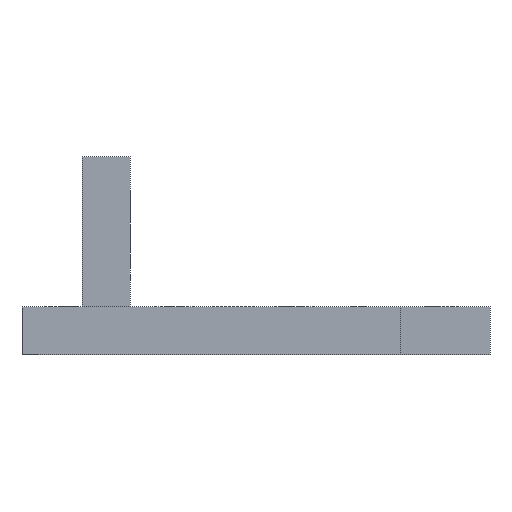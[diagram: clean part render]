
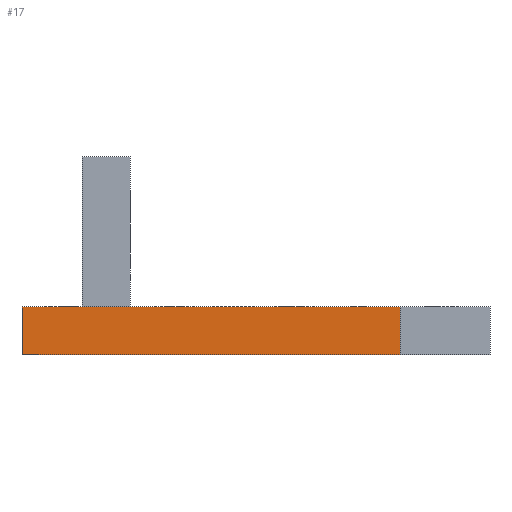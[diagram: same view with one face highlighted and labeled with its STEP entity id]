
A CAD part, left-side view. The second image highlights one B-rep face of the part: STEP entity #17.
In plain terms, the highlighted planar face has unit normal (-1, 0, 0).
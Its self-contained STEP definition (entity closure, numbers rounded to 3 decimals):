
#17 = ADVANCED_FACE('',(#18),#32,.F.);
#18 = FACE_BOUND('',#19,.F.);
#19 = EDGE_LOOP('',(#20,#55,#83,#111));
#20 = ORIENTED_EDGE('',*,*,#21,.F.);
#21 = EDGE_CURVE('',#22,#24,#26,.T.);
#22 = VERTEX_POINT('',#23);
#23 = CARTESIAN_POINT('',(0.,15.,8.));
#24 = VERTEX_POINT('',#25);
#25 = CARTESIAN_POINT('',(0.,78.,8.));
#26 = SURFACE_CURVE('',#27,(#31,#43),.PCURVE_S1.);
#27 = LINE('',#28,#29);
#28 = CARTESIAN_POINT('',(0.,15.,8.));
#29 = VECTOR('',#30,1.);
#30 = DIRECTION('',(0.,1.,0.));
#31 = PCURVE('',#32,#37);
#32 = PLANE('',#33);
#33 = AXIS2_PLACEMENT_3D('',#34,#35,#36);
#34 = CARTESIAN_POINT('',(0.,15.,8.));
#35 = DIRECTION('',(1.,0.,0.));
#36 = DIRECTION('',(0.,1.,0.));
#37 = DEFINITIONAL_REPRESENTATION('',(#38),#42);
#38 = LINE('',#39,#40);
#39 = CARTESIAN_POINT('',(0.,0.));
#40 = VECTOR('',#41,1.);
#41 = DIRECTION('',(1.,0.));
#42 = ( GEOMETRIC_REPRESENTATION_CONTEXT(2) 
PARAMETRIC_REPRESENTATION_CONTEXT() REPRESENTATION_CONTEXT('2D SPACE',''
  ) );
#43 = PCURVE('',#44,#49);
#44 = PLANE('',#45);
#45 = AXIS2_PLACEMENT_3D('',#46,#47,#48);
#46 = CARTESIAN_POINT('',(0.,15.,8.));
#47 = DIRECTION('',(0.,0.,-1.));
#48 = DIRECTION('',(0.,1.,0.));
#49 = DEFINITIONAL_REPRESENTATION('',(#50),#54);
#50 = LINE('',#51,#52);
#51 = CARTESIAN_POINT('',(0.,0.));
#52 = VECTOR('',#53,1.);
#53 = DIRECTION('',(1.,0.));
#54 = ( GEOMETRIC_REPRESENTATION_CONTEXT(2) 
PARAMETRIC_REPRESENTATION_CONTEXT() REPRESENTATION_CONTEXT('2D SPACE',''
  ) );
#55 = ORIENTED_EDGE('',*,*,#56,.T.);
#56 = EDGE_CURVE('',#22,#57,#59,.T.);
#57 = VERTEX_POINT('',#58);
#58 = CARTESIAN_POINT('',(0.,15.,0.));
#59 = SURFACE_CURVE('',#60,(#64,#71),.PCURVE_S1.);
#60 = LINE('',#61,#62);
#61 = CARTESIAN_POINT('',(0.,15.,8.));
#62 = VECTOR('',#63,1.);
#63 = DIRECTION('',(0.,0.,-1.));
#64 = PCURVE('',#32,#65);
#65 = DEFINITIONAL_REPRESENTATION('',(#66),#70);
#66 = LINE('',#67,#68);
#67 = CARTESIAN_POINT('',(0.,0.));
#68 = VECTOR('',#69,1.);
#69 = DIRECTION('',(0.,-1.));
#70 = ( GEOMETRIC_REPRESENTATION_CONTEXT(2) 
PARAMETRIC_REPRESENTATION_CONTEXT() REPRESENTATION_CONTEXT('2D SPACE',''
  ) );
#71 = PCURVE('',#72,#77);
#72 = PLANE('',#73);
#73 = AXIS2_PLACEMENT_3D('',#74,#75,#76);
#74 = CARTESIAN_POINT('',(0.,15.,8.));
#75 = DIRECTION('',(0.,1.,0.));
#76 = DIRECTION('',(1.,0.,0.));
#77 = DEFINITIONAL_REPRESENTATION('',(#78),#82);
#78 = LINE('',#79,#80);
#79 = CARTESIAN_POINT('',(0.,0.));
#80 = VECTOR('',#81,1.);
#81 = DIRECTION('',(0.,1.));
#82 = ( GEOMETRIC_REPRESENTATION_CONTEXT(2) 
PARAMETRIC_REPRESENTATION_CONTEXT() REPRESENTATION_CONTEXT('2D SPACE',''
  ) );
#83 = ORIENTED_EDGE('',*,*,#84,.T.);
#84 = EDGE_CURVE('',#57,#85,#87,.T.);
#85 = VERTEX_POINT('',#86);
#86 = CARTESIAN_POINT('',(0.,78.,0.));
#87 = SURFACE_CURVE('',#88,(#92,#99),.PCURVE_S1.);
#88 = LINE('',#89,#90);
#89 = CARTESIAN_POINT('',(0.,15.,0.));
#90 = VECTOR('',#91,1.);
#91 = DIRECTION('',(0.,1.,0.));
#92 = PCURVE('',#32,#93);
#93 = DEFINITIONAL_REPRESENTATION('',(#94),#98);
#94 = LINE('',#95,#96);
#95 = CARTESIAN_POINT('',(0.,-8.));
#96 = VECTOR('',#97,1.);
#97 = DIRECTION('',(1.,0.));
#98 = ( GEOMETRIC_REPRESENTATION_CONTEXT(2) 
PARAMETRIC_REPRESENTATION_CONTEXT() REPRESENTATION_CONTEXT('2D SPACE',''
  ) );
#99 = PCURVE('',#100,#105);
#100 = PLANE('',#101);
#101 = AXIS2_PLACEMENT_3D('',#102,#103,#104);
#102 = CARTESIAN_POINT('',(0.,15.,0.));
#103 = DIRECTION('',(0.,0.,-1.));
#104 = DIRECTION('',(0.,1.,0.));
#105 = DEFINITIONAL_REPRESENTATION('',(#106),#110);
#106 = LINE('',#107,#108);
#107 = CARTESIAN_POINT('',(0.,0.));
#108 = VECTOR('',#109,1.);
#109 = DIRECTION('',(1.,0.));
#110 = ( GEOMETRIC_REPRESENTATION_CONTEXT(2) 
PARAMETRIC_REPRESENTATION_CONTEXT() REPRESENTATION_CONTEXT('2D SPACE',''
  ) );
#111 = ORIENTED_EDGE('',*,*,#112,.F.);
#112 = EDGE_CURVE('',#24,#85,#113,.T.);
#113 = SURFACE_CURVE('',#114,(#118,#125),.PCURVE_S1.);
#114 = LINE('',#115,#116);
#115 = CARTESIAN_POINT('',(0.,78.,8.));
#116 = VECTOR('',#117,1.);
#117 = DIRECTION('',(0.,0.,-1.));
#118 = PCURVE('',#32,#119);
#119 = DEFINITIONAL_REPRESENTATION('',(#120),#124);
#120 = LINE('',#121,#122);
#121 = CARTESIAN_POINT('',(63.,0.));
#122 = VECTOR('',#123,1.);
#123 = DIRECTION('',(0.,-1.));
#124 = ( GEOMETRIC_REPRESENTATION_CONTEXT(2) 
PARAMETRIC_REPRESENTATION_CONTEXT() REPRESENTATION_CONTEXT('2D SPACE',''
  ) );
#125 = PCURVE('',#126,#131);
#126 = PLANE('',#127);
#127 = AXIS2_PLACEMENT_3D('',#128,#129,#130);
#128 = CARTESIAN_POINT('',(0.,78.,8.));
#129 = DIRECTION('',(0.,1.,0.));
#130 = DIRECTION('',(1.,0.,0.));
#131 = DEFINITIONAL_REPRESENTATION('',(#132),#136);
#132 = LINE('',#133,#134);
#133 = CARTESIAN_POINT('',(0.,0.));
#134 = VECTOR('',#135,1.);
#135 = DIRECTION('',(0.,1.));
#136 = ( GEOMETRIC_REPRESENTATION_CONTEXT(2) 
PARAMETRIC_REPRESENTATION_CONTEXT() REPRESENTATION_CONTEXT('2D SPACE',''
  ) );
